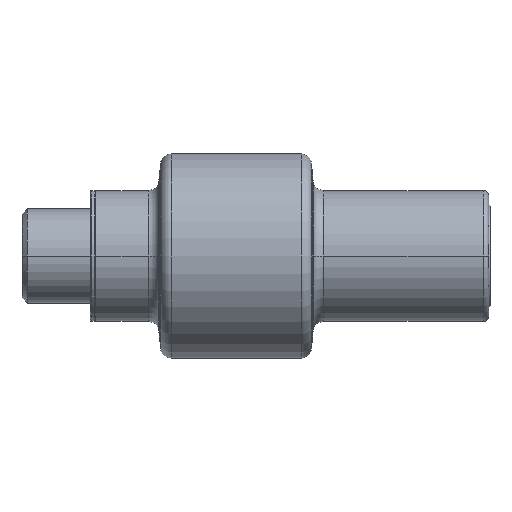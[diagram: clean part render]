
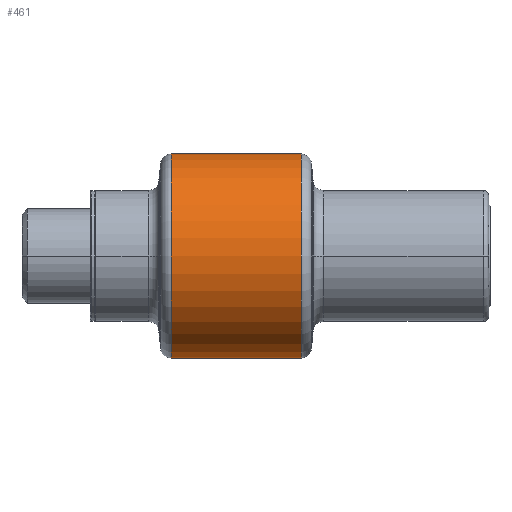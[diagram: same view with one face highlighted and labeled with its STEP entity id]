
A CAD part, left-side view. The second image highlights one B-rep face of the part: STEP entity #461.
In plain terms, the highlighted cylindrical face has radius 39 mm (diameter 78 mm), a partial arc.
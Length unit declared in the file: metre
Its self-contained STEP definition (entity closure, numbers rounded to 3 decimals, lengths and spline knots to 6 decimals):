
#461=ADVANCED_FACE('0:597',(#776),#777,.T.);
#776=FACE_OUTER_BOUND('',#1167,.T.);
#777=CYLINDRICAL_SURFACE('',#1168,0.039);
#1167=EDGE_LOOP('',(#2041,#2042,#2043,#2044));
#1168=AXIS2_PLACEMENT_3D('',#2045,#2046,#2047);
#2041=ORIENTED_EDGE('',*,*,#2745,.T.);
#2042=ORIENTED_EDGE('',*,*,#2766,.T.);
#2043=ORIENTED_EDGE('',*,*,#2747,.T.);
#2044=ORIENTED_EDGE('',*,*,#2769,.T.);
#2045=CARTESIAN_POINT('',(0.0,0.112,0.0));
#2046=DIRECTION('',(0.0,-1.0,0.0));
#2047=DIRECTION('',(0.0,0.0,1.0));
#2745=EDGE_CURVE('',#3208,#3209,#3210,.T.);
#2747=EDGE_CURVE('',#3213,#3211,#3214,.T.);
#2766=EDGE_CURVE('0:615',#3209,#3213,#3241,.T.);
#2769=EDGE_CURVE('0:624',#3211,#3208,#3244,.T.);
#3208=VERTEX_POINT('',#3805);
#3209=VERTEX_POINT('',#3806);
#3210=LINE('',#3807,#3808);
#3211=VERTEX_POINT('',#3809);
#3213=VERTEX_POINT('',#3811);
#3214=LINE('',#3812,#3813);
#3241=CIRCLE('',#4029,0.039);
#3244=CIRCLE('',#4032,0.039);
#3805=CARTESIAN_POINT('',(0.,0.015665,0.039));
#3806=CARTESIAN_POINT('',(0.,0.065335,0.039));
#3807=CARTESIAN_POINT('',(0.,0.0405,0.039));
#3808=VECTOR('',#4896,1.0);
#3809=CARTESIAN_POINT('',(0.,0.015665,-0.039));
#3811=CARTESIAN_POINT('',(0.,0.065335,-0.039));
#3812=CARTESIAN_POINT('',(0.,0.0405,-0.039));
#3813=VECTOR('',#4900,1.0);
#4029=AXIS2_PLACEMENT_3D('',#4931,#4932,#4933);
#4032=AXIS2_PLACEMENT_3D('',#4940,#4941,#4942);
#4896=DIRECTION('',(0.0,1.0,-0.0));
#4900=DIRECTION('',(0.0,-1.0,0.0));
#4931=CARTESIAN_POINT('',(0.0,0.065335,0.0));
#4932=DIRECTION('',(0.0,-1.0,0.0));
#4933=DIRECTION('',(0.0,0.0,-1.0));
#4940=CARTESIAN_POINT('',(0.0,0.015665,0.0));
#4941=DIRECTION('',(0.0,1.0,0.0));
#4942=DIRECTION('',(0.0,0.0,-1.0));
